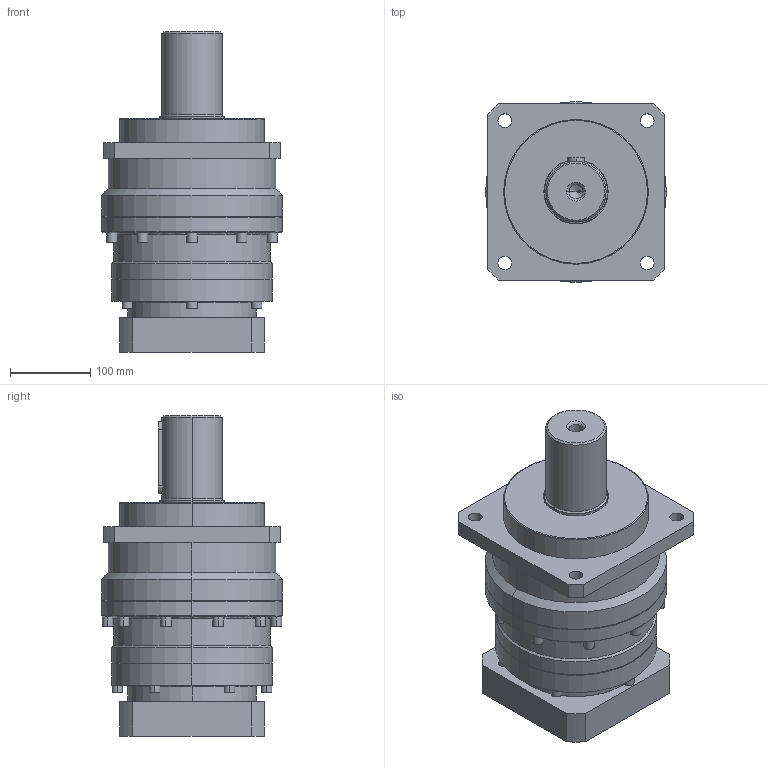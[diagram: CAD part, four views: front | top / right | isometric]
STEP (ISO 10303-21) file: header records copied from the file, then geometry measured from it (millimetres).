
FILE_DESCRIPTION (( 'STEP AP214' ), '1' );
FILE_NAME ('VRB-220-L2-S2-P1 35-114.3-200-M12.STEP', '2023-08-19T07:57:45', ( '微软用户' ), ( '微软中国' ), 'SwSTEP 2.0', 'SolidWorks 2018', '' );
FILE_SCHEMA (( 'AUTOMOTIVE_DESIGN' ));
Length unit declared in the file: millimetre
Products named in the file (1): VRB-220-L2-S2-P1 35-114.3-200-M12
Bounding box: 225 x 225 x 398.5 mm (x, y, z)
Volume: 9844431.6 mm3; surface area: 395761.7 mm2
Topology: 3 solids, 3 shells, 297 faces, 721 edges, 465 vertices
Faces by surface type: plane 176, cylinder 91, cone 22, torus 8
Entity records: 8989 total; most frequent: CARTESIAN_POINT 1747, DIRECTION 1541, ORIENTED_EDGE 1438, EDGE_CURVE 719, AXIS2_PLACEMENT_3D 545, VERTEX_POINT 465, VECTOR 451, LINE 451
